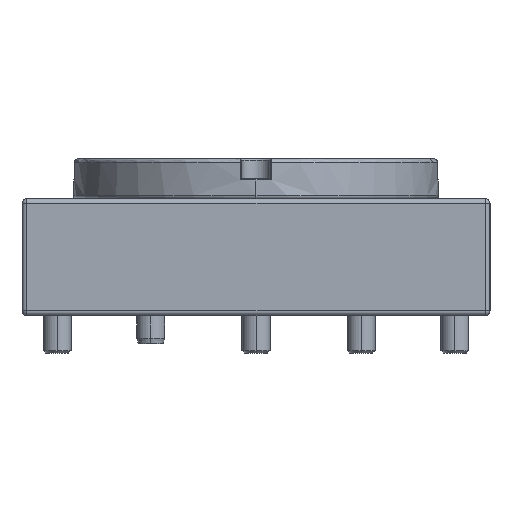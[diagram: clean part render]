
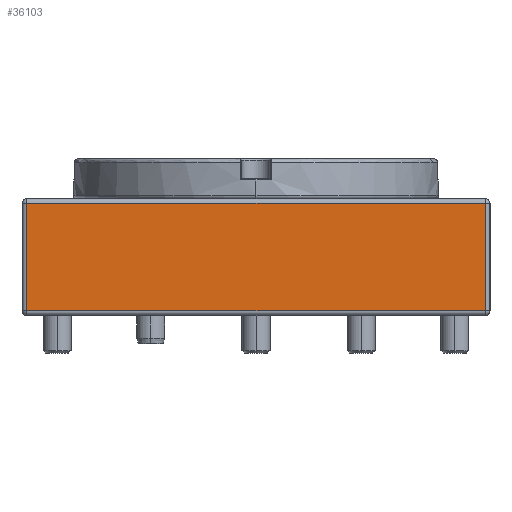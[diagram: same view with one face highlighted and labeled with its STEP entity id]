
A CAD part, left-side view. The second image highlights one B-rep face of the part: STEP entity #36103.
In plain terms, the highlighted planar face has unit normal (-1, 0, 0).
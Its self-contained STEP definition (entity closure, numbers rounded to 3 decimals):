
#7395 = LINE ( 'NONE', #57748, #69371 ) ;
#11386 = ORIENTED_EDGE ( 'NONE', *, *, #16357, .T. ) ;
#13172 = LINE ( 'NONE', #42270, #62832 ) ;
#16357 = EDGE_CURVE ( 'NONE', #101948, #65360, #13172, .T. ) ;
#18590 = DIRECTION ( 'NONE',  ( 0., -1., 0. ) ) ;
#23205 = CARTESIAN_POINT ( 'NONE',  ( -150.04, 117.644, 222.5 ) ) ;
#26859 = PLANE ( 'NONE',  #39536 ) ;
#28437 = EDGE_CURVE ( 'NONE', #65360, #38517, #34646, .T. ) ;
#29638 = CARTESIAN_POINT ( 'NONE',  ( -150.04, 117.644, 211.5 ) ) ;
#31036 = EDGE_CURVE ( 'NONE', #94906, #101948, #7395, .T. ) ;
#31535 = DIRECTION ( 'NONE',  ( 1., 0., 0. ) ) ;
#34646 = LINE ( 'NONE', #36675, #37162 ) ;
#36103 = ADVANCED_FACE ( 'NONE', ( #102071 ), #26859, .F. ) ;
#36675 = CARTESIAN_POINT ( 'NONE',  ( -150.04, 117.644, 211.5 ) ) ;
#37162 = VECTOR ( 'NONE', #68296, 1000. ) ;
#38517 = VERTEX_POINT ( 'NONE', #29638 ) ;
#39536 = AXIS2_PLACEMENT_3D ( 'NONE', #87345, #31535, #50979 ) ;
#42270 = CARTESIAN_POINT ( 'NONE',  ( -150.04, 19.644, 222.5 ) ) ;
#47819 = CARTESIAN_POINT ( 'NONE',  ( -150.04, 117.644, 188.5 ) ) ;
#47863 = ORIENTED_EDGE ( 'NONE', *, *, #31036, .T. ) ;
#50979 = DIRECTION ( 'NONE',  ( 0., 0., -1. ) ) ;
#57748 = CARTESIAN_POINT ( 'NONE',  ( -150.04, 118.644, 188.5 ) ) ;
#62713 = CARTESIAN_POINT ( 'NONE',  ( -150.04, 19.644, 188.5 ) ) ;
#62832 = VECTOR ( 'NONE', #87277, 1000. ) ;
#65360 = VERTEX_POINT ( 'NONE', #98749 ) ;
#68004 = LINE ( 'NONE', #23205, #102645 ) ;
#68296 = DIRECTION ( 'NONE',  ( 0., 1., 0. ) ) ;
#69371 = VECTOR ( 'NONE', #18590, 1000. ) ;
#78451 = EDGE_LOOP ( 'NONE', ( #95230, #47863, #11386, #80189 ) ) ;
#80189 = ORIENTED_EDGE ( 'NONE', *, *, #28437, .T. ) ;
#87277 = DIRECTION ( 'NONE',  ( 0., 0., 1. ) ) ;
#87345 = CARTESIAN_POINT ( 'NONE',  ( -150.04, 118.644, 222.5 ) ) ;
#91949 = EDGE_CURVE ( 'NONE', #38517, #94906, #68004, .T. ) ;
#94906 = VERTEX_POINT ( 'NONE', #47819 ) ;
#95230 = ORIENTED_EDGE ( 'NONE', *, *, #91949, .T. ) ;
#96983 = DIRECTION ( 'NONE',  ( 0., 0., -1. ) ) ;
#98749 = CARTESIAN_POINT ( 'NONE',  ( -150.04, 19.644, 211.5 ) ) ;
#101948 = VERTEX_POINT ( 'NONE', #62713 ) ;
#102071 = FACE_OUTER_BOUND ( 'NONE', #78451, .T. ) ;
#102645 = VECTOR ( 'NONE', #96983, 1000. ) ;
